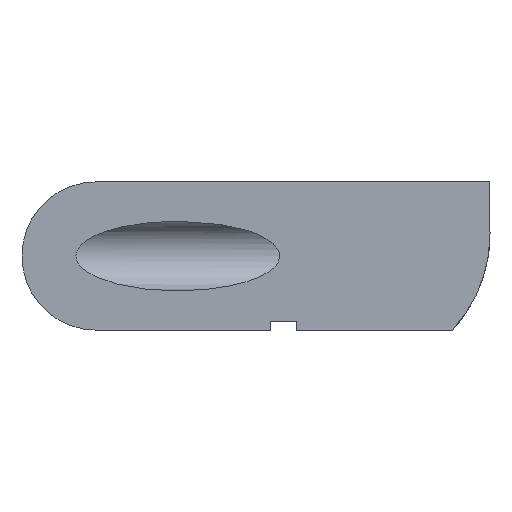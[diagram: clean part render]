
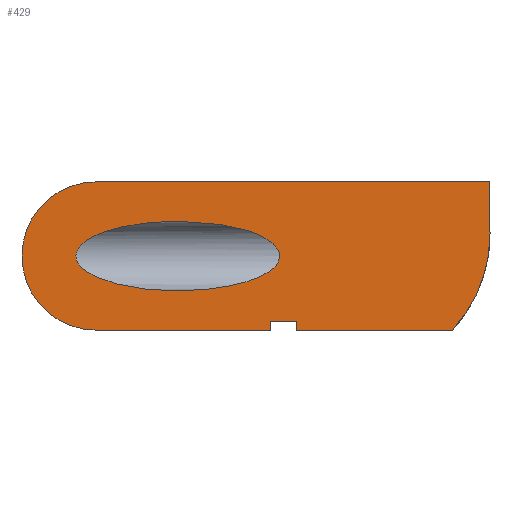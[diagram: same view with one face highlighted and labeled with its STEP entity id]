
A CAD part, front view. The second image highlights one B-rep face of the part: STEP entity #429.
In plain terms, the highlighted planar face has unit normal (0, -1, 0).
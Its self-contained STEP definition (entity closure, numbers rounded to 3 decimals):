
#19=FACE_BOUND('',#81,.T.);
#24=ELLIPSE('',#472,12.426,4.25);
#40=CIRCLE('',#469,17.296);
#41=CIRCLE('',#471,9.05);
#58=FACE_OUTER_BOUND('',#80,.T.);
#80=EDGE_LOOP('',(#318,#319,#320,#321,#322,#323,#324,#325,#326));
#81=EDGE_LOOP('',(#327));
#99=LINE('',#627,#139);
#103=LINE('',#636,#143);
#107=LINE('',#644,#147);
#112=LINE('',#653,#152);
#121=LINE('',#682,#161);
#122=LINE('',#684,#162);
#123=LINE('',#686,#163);
#139=VECTOR('',#503,10.);
#143=VECTOR('',#509,10.);
#147=VECTOR('',#515,10.);
#152=VECTOR('',#522,10.);
#161=VECTOR('',#549,10.);
#162=VECTOR('',#550,10.);
#163=VECTOR('',#553,10.);
#179=VERTEX_POINT('',#625);
#180=VERTEX_POINT('',#626);
#183=VERTEX_POINT('',#634);
#184=VERTEX_POINT('',#635);
#187=VERTEX_POINT('',#643);
#190=VERTEX_POINT('',#651);
#200=VERTEX_POINT('',#677);
#201=VERTEX_POINT('',#681);
#202=VERTEX_POINT('',#683);
#203=VERTEX_POINT('',#687);
#220=EDGE_CURVE('',#179,#180,#99,.T.);
#224=EDGE_CURVE('',#183,#184,#103,.T.);
#228=EDGE_CURVE('',#187,#183,#107,.T.);
#233=EDGE_CURVE('',#180,#190,#112,.T.);
#246=EDGE_CURVE('',#190,#200,#40,.T.);
#247=EDGE_CURVE('',#200,#201,#121,.T.);
#248=EDGE_CURVE('',#201,#202,#122,.T.);
#249=EDGE_CURVE('',#202,#187,#41,.T.);
#250=EDGE_CURVE('',#184,#179,#123,.T.);
#251=EDGE_CURVE('',#203,#203,#24,.T.);
#318=ORIENTED_EDGE('',*,*,#220,.T.);
#319=ORIENTED_EDGE('',*,*,#233,.T.);
#320=ORIENTED_EDGE('',*,*,#246,.T.);
#321=ORIENTED_EDGE('',*,*,#247,.T.);
#322=ORIENTED_EDGE('',*,*,#248,.T.);
#323=ORIENTED_EDGE('',*,*,#249,.T.);
#324=ORIENTED_EDGE('',*,*,#228,.T.);
#325=ORIENTED_EDGE('',*,*,#224,.T.);
#326=ORIENTED_EDGE('',*,*,#250,.T.);
#327=ORIENTED_EDGE('',*,*,#251,.T.);
#415=PLANE('',#470);
#429=ADVANCED_FACE('',(#58,#19),#415,.F.);
#469=AXIS2_PLACEMENT_3D('',#679,#545,#546);
#470=AXIS2_PLACEMENT_3D('',#680,#547,#548);
#471=AXIS2_PLACEMENT_3D('',#685,#551,#552);
#472=AXIS2_PLACEMENT_3D('',#688,#554,#555);
#503=DIRECTION('',(0.,0.,-1.));
#509=DIRECTION('',(0.,0.,1.));
#515=DIRECTION('',(1.,0.,0.));
#522=DIRECTION('',(1.,0.,0.));
#545=DIRECTION('center_axis',(0.,-1.,0.));
#546=DIRECTION('ref_axis',(1.,0.,0.));
#547=DIRECTION('center_axis',(0.,1.,0.));
#548=DIRECTION('ref_axis',(1.,0.,0.));
#549=DIRECTION('',(0.,0.,1.));
#550=DIRECTION('',(-1.,0.,0.));
#551=DIRECTION('center_axis',(0.,-1.,0.));
#552=DIRECTION('ref_axis',(0.,0.,1.));
#553=DIRECTION('',(1.,0.,0.));
#554=DIRECTION('center_axis',(0.,1.,0.));
#555=DIRECTION('ref_axis',(1.,0.,0.));
#625=CARTESIAN_POINT('',(24.386,0.,-7.95));
#626=CARTESIAN_POINT('',(24.386,0.,-9.05));
#627=CARTESIAN_POINT('',(24.386,0.,-4.525));
#634=CARTESIAN_POINT('',(21.286,0.,-9.05));
#635=CARTESIAN_POINT('',(21.286,0.,-7.95));
#636=CARTESIAN_POINT('',(21.286,0.,-3.975));
#643=CARTESIAN_POINT('',(0.,0.,-9.05));
#644=CARTESIAN_POINT('',(0.,0.,-9.05));
#651=CARTESIAN_POINT('',(43.45,0.,-9.05));
#653=CARTESIAN_POINT('',(0.,0.,-9.05));
#677=CARTESIAN_POINT('',(48.054,0.,2.7));
#679=CARTESIAN_POINT('Origin',(30.757,0.,2.7));
#680=CARTESIAN_POINT('Origin',(20.6,0.,0.));
#681=CARTESIAN_POINT('',(48.054,0.,9.05));
#682=CARTESIAN_POINT('',(48.054,0.,3.975));
#683=CARTESIAN_POINT('',(0.,0.,9.05));
#684=CARTESIAN_POINT('',(50.25,0.,9.05));
#685=CARTESIAN_POINT('Origin',(0.,0.,0.));
#686=CARTESIAN_POINT('',(22.493,0.,-7.95));
#687=CARTESIAN_POINT('',(9.955,0.,4.25));
#688=CARTESIAN_POINT('Origin',(9.955,0.,0.));
